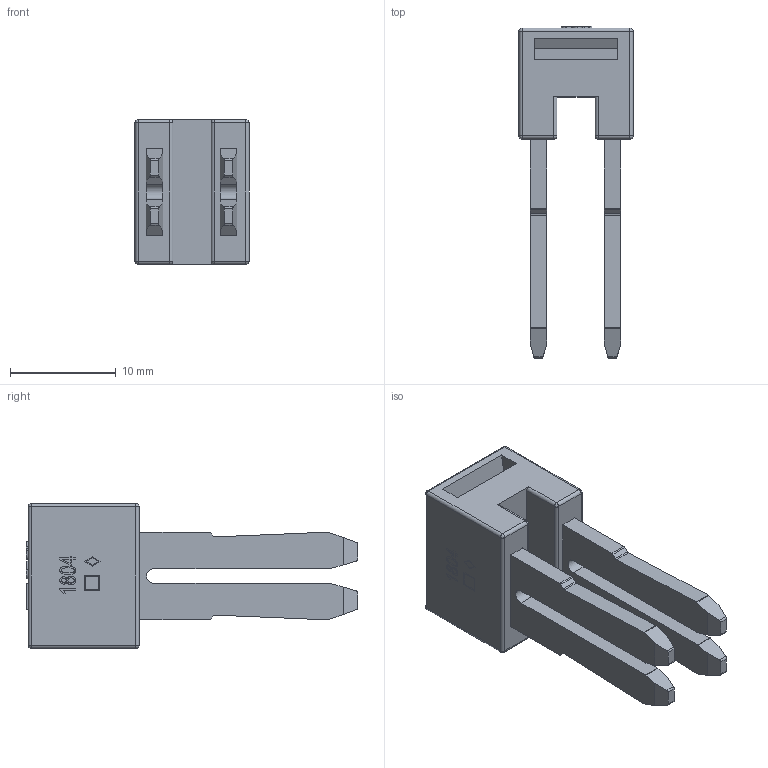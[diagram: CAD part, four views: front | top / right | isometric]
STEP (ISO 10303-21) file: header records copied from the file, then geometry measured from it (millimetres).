
FILE_DESCRIPTION (( 'STEP AP203' ), '1' );
FILE_NAME ('ìîñòèê ñîåäèíèòåëüíûé â ñáîðå.STEP', '2021-10-06T05:50:03', ( '' ), ( '' ), 'SwSTEP 2.0', 'SolidWorks 2016', '' );
FILE_SCHEMA (( 'CONFIG_CONTROL_DESIGN' ));
Length unit declared in the file: millimetre
Products named in the file (3): ìîñòèê ñîåäèíèòåëüíûé â ñáîðå; Êîíòàêò ìîñòèêà ñîåäèíèòåëüíîãî; 麧謷.膰艜魛蠉
Assembly tree (2 placements, depth 2):
  ìîñòèê ñîåäèíèòåëüíûé â ñáîðå
    麧謷.膰艜魛蠉
    Êîíòàêò ìîñòèêà ñîåäèíèòåëüíîãî
Bounding box: 10.8 x 31.4 x 13.7 mm (x, y, z)
Volume: 1652.3 mm3; surface area: 2688.2 mm2
Topology: 2 solids, 2 shells, 386 faces, 1031 edges, 662 vertices
Faces by surface type: plane 265, cylinder 58, bspline 51, sphere 12
Entity records: 14830 total; most frequent: CARTESIAN_POINT 5267, ORIENTED_EDGE 2038, DIRECTION 1697, EDGE_CURVE 1019, VECTOR 785, LINE 785, VERTEX_POINT 662, AXIS2_PLACEMENT_3D 456
